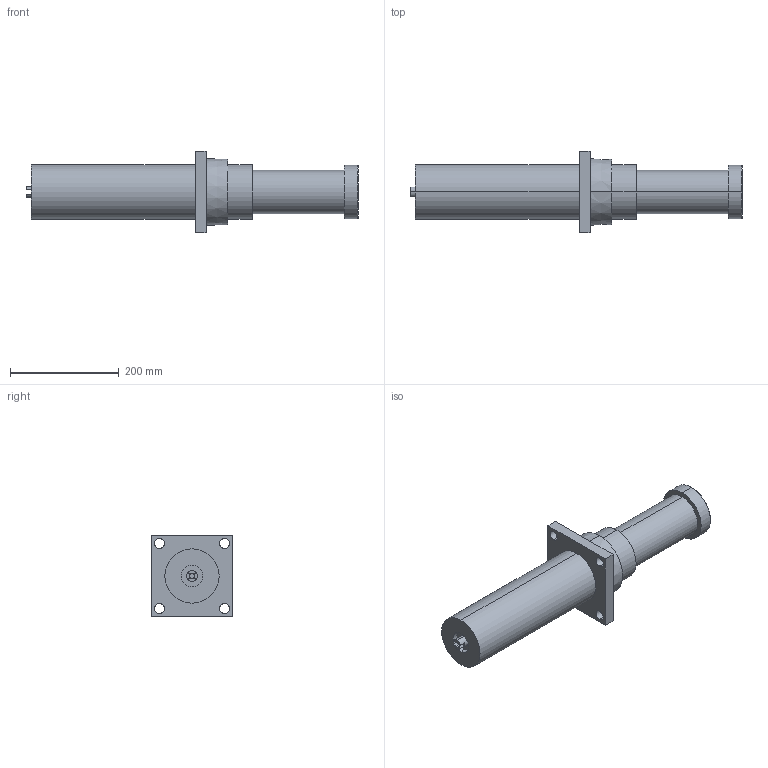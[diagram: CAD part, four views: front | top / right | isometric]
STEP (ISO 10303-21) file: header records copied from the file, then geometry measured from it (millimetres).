
FILE_DESCRIPTION (( 'STEP AP214' ), '1' );
FILE_NAME ('LDH100X150FF.STEP', '2019-01-21T04:55:47', ( 'user' ), ( 'Microsoft' ), 'SwSTEP 2.0', 'SolidWorks 2016', '' );
FILE_SCHEMA (( 'AUTOMOTIVE_DESIGN' ));
Length unit declared in the file: millimetre
Products named in the file (1): LDH100X150FF
Bounding box: 612 x 150 x 150 mm (x, y, z)
Volume: 4654671.4 mm3; surface area: 242448.4 mm2
Topology: 1 solids, 5 shells, 65 faces, 140 edges, 92 vertices
Faces by surface type: cylinder 30, plane 29, cone 6
Entity records: 1840 total; most frequent: DIRECTION 348, CARTESIAN_POINT 298, ORIENTED_EDGE 280, AXIS2_PLACEMENT_3D 142, EDGE_CURVE 140, VERTEX_POINT 92, EDGE_LOOP 80, CIRCLE 76
